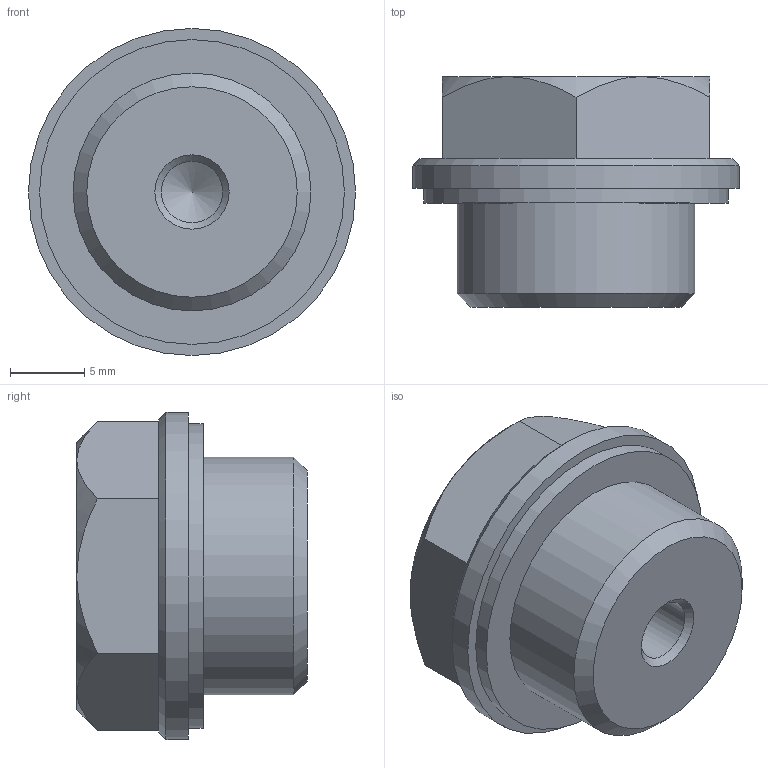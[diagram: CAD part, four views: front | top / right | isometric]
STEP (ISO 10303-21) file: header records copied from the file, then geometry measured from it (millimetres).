
FILE_DESCRIPTION( ( 'STEP AP203' ), '1' );
FILE_NAME( 'C:/Temp/Ganter_Step_05_03_2020/data/3_5/gn742/gn742_1/Threaded plug GN 742-22-M16x1,5-OS-1.stp', '2020-03-12T13:39:12', ( 'License CC BY-ND 4.0' ), ( 'CADENAS' ), ' ', 'PARTsolutions', ' ' );
FILE_SCHEMA( ( 'CONFIG_CONTROL_DESIGN' ) );
Length unit declared in the file: millimetre
Products named in the file (1): _Threaded plug GN 742-22-M16x1,5-OS-1
Bounding box: 22 x 15.5 x 22 mm (x, y, z)
Volume: 3833.4 mm3; surface area: 1744.9 mm2
Topology: 1 solids, 1 shells, 25 faces, 50 edges, 30 vertices
Faces by surface type: plane 11, cone 10, cylinder 4
Full cylindrical faces by diameter (mm): 4.134 x1, 16 x1, 20.5 x1, 22 x1
Entity records: 700 total; most frequent: CARTESIAN_POINT 181, DIRECTION 98, ORIENTED_EDGE 82, AXIS2_PLACEMENT_3D 43, EDGE_CURVE 41, EDGE_LOOP 36, VERTEX_POINT 30, FACE_OUTER_BOUND 29
